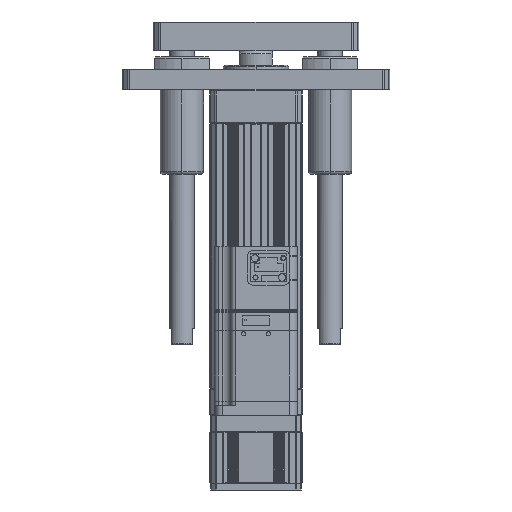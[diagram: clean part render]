
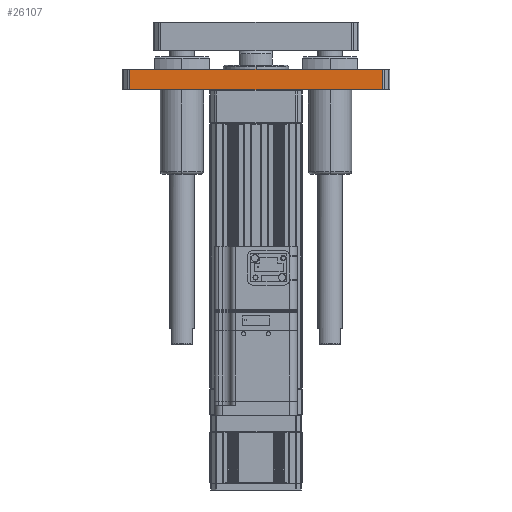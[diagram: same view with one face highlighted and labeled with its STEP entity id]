
A CAD part, left-side view. The second image highlights one B-rep face of the part: STEP entity #26107.
In plain terms, the highlighted planar face has unit normal (-1, 0, 0).
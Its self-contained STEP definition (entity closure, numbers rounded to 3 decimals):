
#457 = VECTOR ( 'NONE', #19421, 1000. ) ;
#1119 = EDGE_LOOP ( 'NONE', ( #12871, #36579, #24040, #25521 ) ) ;
#3343 = CARTESIAN_POINT ( 'NONE',  ( -22.5, 61.379, 145. ) ) ;
#4291 = DIRECTION ( 'NONE',  ( 0., 1., 0. ) ) ;
#4741 = AXIS2_PLACEMENT_3D ( 'NONE', #10832, #24188, #4291 ) ;
#5416 = CARTESIAN_POINT ( 'NONE',  ( -22.5, 61.379, 145. ) ) ;
#7006 = DIRECTION ( 'NONE',  ( 0., -1., 0. ) ) ;
#9083 = CARTESIAN_POINT ( 'NONE',  ( -22.5, -61.379, 155. ) ) ;
#9611 = CARTESIAN_POINT ( 'NONE',  ( -22.5, -61.379, 145. ) ) ;
#10832 = CARTESIAN_POINT ( 'NONE',  ( -22.5, 61.379, 155. ) ) ;
#11614 = VECTOR ( 'NONE', #18608, 1000. ) ;
#12378 = VERTEX_POINT ( 'NONE', #3343 ) ;
#12871 = ORIENTED_EDGE ( 'NONE', *, *, #42184, .T. ) ;
#12884 = EDGE_CURVE ( 'NONE', #42178, #12378, #25921, .T. ) ;
#16067 = CARTESIAN_POINT ( 'NONE',  ( -22.5, 61.379, 155. ) ) ;
#18238 = EDGE_CURVE ( 'NONE', #37499, #28628, #31164, .T. ) ;
#18608 = DIRECTION ( 'NONE',  ( 0., -1., 0. ) ) ;
#19421 = DIRECTION ( 'NONE',  ( 0., 0., -1. ) ) ;
#20065 = CARTESIAN_POINT ( 'NONE',  ( -22.5, -61.379, 155. ) ) ;
#24040 = ORIENTED_EDGE ( 'NONE', *, *, #37538, .F. ) ;
#24188 = DIRECTION ( 'NONE',  ( 1., 0., 0. ) ) ;
#24866 = FACE_OUTER_BOUND ( 'NONE', #1119, .T. ) ;
#25521 = ORIENTED_EDGE ( 'NONE', *, *, #12884, .T. ) ;
#25853 = VECTOR ( 'NONE', #7006, 1000. ) ;
#25921 = LINE ( 'NONE', #16067, #457 ) ;
#26107 = ADVANCED_FACE ( 'NONE', ( #24866 ), #34058, .F. ) ;
#28628 = VERTEX_POINT ( 'NONE', #9611 ) ;
#29233 = LINE ( 'NONE', #5416, #11614 ) ;
#31164 = LINE ( 'NONE', #9083, #39016 ) ;
#33414 = CARTESIAN_POINT ( 'NONE',  ( -22.5, 61.379, 155. ) ) ;
#34058 = PLANE ( 'NONE',  #4741 ) ;
#34680 = LINE ( 'NONE', #33414, #25853 ) ;
#35657 = DIRECTION ( 'NONE',  ( 0., 0., -1. ) ) ;
#36579 = ORIENTED_EDGE ( 'NONE', *, *, #18238, .F. ) ;
#37499 = VERTEX_POINT ( 'NONE', #20065 ) ;
#37538 = EDGE_CURVE ( 'NONE', #42178, #37499, #34680, .T. ) ;
#39016 = VECTOR ( 'NONE', #35657, 1000. ) ;
#41871 = CARTESIAN_POINT ( 'NONE',  ( -22.5, 61.379, 155. ) ) ;
#42178 = VERTEX_POINT ( 'NONE', #41871 ) ;
#42184 = EDGE_CURVE ( 'NONE', #12378, #28628, #29233, .T. ) ;
